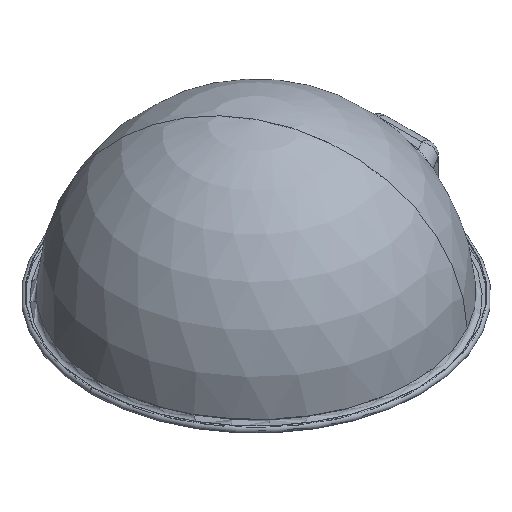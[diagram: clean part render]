
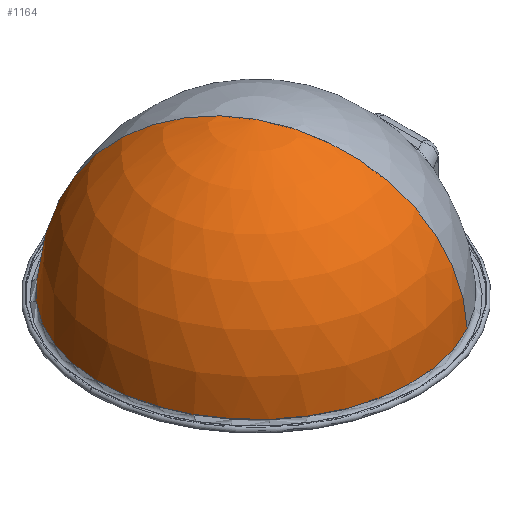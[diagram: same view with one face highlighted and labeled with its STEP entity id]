
A CAD part, isometric view. The second image highlights one B-rep face of the part: STEP entity #1164.
In plain terms, the highlighted spherical face has radius 71.5 mm.
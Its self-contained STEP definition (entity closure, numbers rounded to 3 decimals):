
#477=CARTESIAN_POINT('Vertex',(34.259,-62.711,2.432)) ;
#480=CARTESIAN_POINT('Axis2P3D Location',(0.,0.,2.432)) ;
#484=CARTESIAN_POINT('Vertex',(-34.259,62.711,2.432)) ;
#1062=CARTESIAN_POINT('Axis2P3D Location',(0.,0.,0.)) ;
#1067=CARTESIAN_POINT('Axis2P3D Location',(0.,0.,0.)) ;
#1071=CARTESIAN_POINT('Vertex',(0.,0.,71.5)) ;
#1138=CARTESIAN_POINT('Axis2P3D Location',(0.,0.,0.)) ;
#481=DIRECTION('Axis2P3D Direction',(0.,-0.,1.)) ;
#1063=DIRECTION('Axis2P3D Direction',(0.,0.,1.)) ;
#1064=DIRECTION('Axis2P3D XDirection',(-0.479,0.878,0.)) ;
#1068=DIRECTION('Axis2P3D Direction',(-0.878,-0.479,0.)) ;
#1139=DIRECTION('Axis2P3D Direction',(0.878,0.479,-0.)) ;
#482=AXIS2_PLACEMENT_3D('Circle Axis2P3D',#480,#481,$) ;
#1065=AXIS2_PLACEMENT_3D('Sphere Axis2P3D',#1062,#1063,#1064) ;
#1069=AXIS2_PLACEMENT_3D('Circle Axis2P3D',#1067,#1068,$) ;
#1140=AXIS2_PLACEMENT_3D('Circle Axis2P3D',#1138,#1139,$) ;
#1160=ORIENTED_EDGE('',*,*,#1142,.F.) ;
#1161=ORIENTED_EDGE('',*,*,#486,.T.) ;
#1162=ORIENTED_EDGE('',*,*,#1073,.T.) ;
#1164=ADVANCED_FACE('Corps principal',(#1163),#1066,.T.) ;
#483=CIRCLE('generated circle',#482,71.459) ;
#1070=CIRCLE('generated circle',#1069,71.5) ;
#1141=CIRCLE('generated circle',#1140,71.5) ;
#486=EDGE_CURVE('',#485,#478,#483,.T.) ;
#1073=EDGE_CURVE('',#478,#1072,#1070,.T.) ;
#1142=EDGE_CURVE('',#485,#1072,#1141,.T.) ;
#1159=EDGE_LOOP('',(#1160,#1161,#1162)) ;
#1163=FACE_OUTER_BOUND('',#1159,.T.) ;
#1066=SPHERICAL_SURFACE('',#1065,71.5) ;
#478=VERTEX_POINT('',#477) ;
#485=VERTEX_POINT('',#484) ;
#1072=VERTEX_POINT('',#1071) ;
